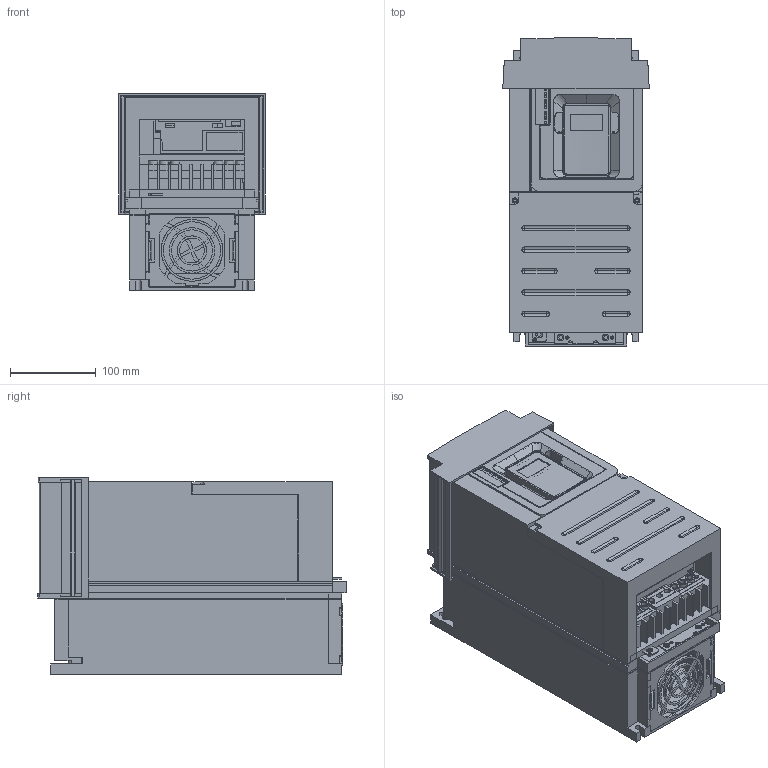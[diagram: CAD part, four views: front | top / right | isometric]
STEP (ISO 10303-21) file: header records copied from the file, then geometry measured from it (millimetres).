
FILE_DESCRIPTION(('STEP AP242'),'1');
FILE_NAME('atv610d11n4.stp','2019-08-04T10:15:19',('TraceParts'),('TraceParts S.A.'),'Spatial InterOp 3D',' ',' ');
FILE_SCHEMA(('AP242_MANAGED_MODEL_BASED_3D_ENGINEERING_MIM_LF {1 0 10303 442 1 1 4}'));
Length unit declared in the file: millimetre
Products named in the file (1): atv610d11n4_1
Bounding box: 171.01 x 359.8 x 229.5 mm (x, y, z)
Volume: 2041786 mm3; surface area: 1134779.5 mm2
Topology: 15 solids, 15 shells, 1760 faces, 4980 edges, 3239 vertices
Faces by surface type: plane 1354, cylinder 302, sphere 41, bspline 31, torus 16, cone 8, extrusion 8
Entity records: 58076 total; most frequent: CARTESIAN_POINT 11663, ORIENTED_EDGE 9960, DIRECTION 9124, EDGE_CURVE 4980, VECTOR 4128, LINE 4120, VERTEX_POINT 3239, AXIS2_PLACEMENT_3D 2498
